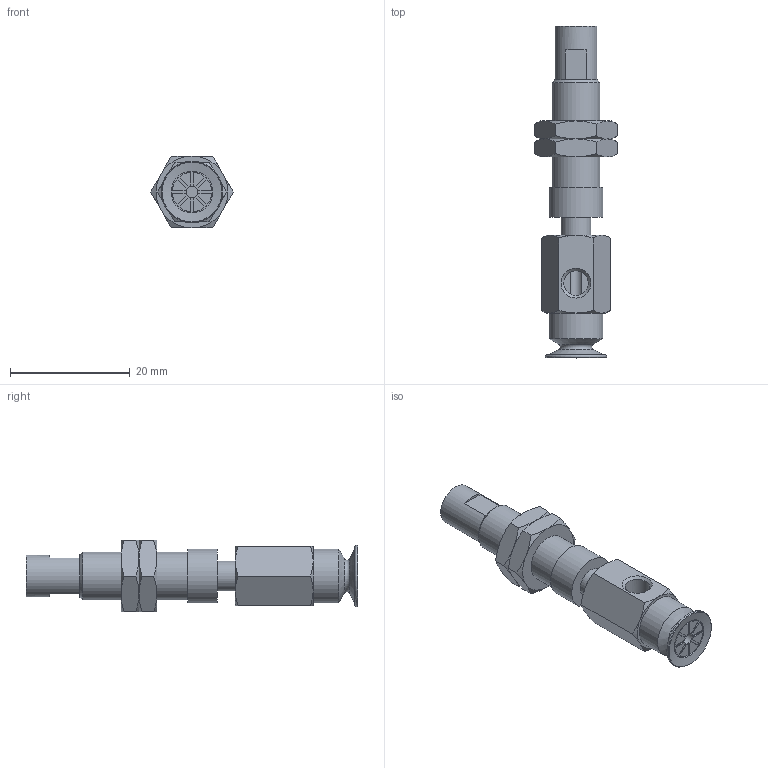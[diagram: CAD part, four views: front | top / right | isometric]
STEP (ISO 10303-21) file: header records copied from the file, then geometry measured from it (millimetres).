
FILE_DESCRIPTION(('STEP AP203'),'1');
FILE_NAME('.stp','2025-02-11T06:58:10',(' '),(' '),'Spatial InterOp 3D',' ',' ');
FILE_SCHEMA(('CONFIG_CONTROL_DESIGN'));
Length unit declared in the file: millimetre
Products named in the file (6): BNABPAYS-10B-3-※; NAPAYS-10A-3--M; NAPAYS-10A-3--F; Nut-10A-S; CONNECTOR-10A-3-PA; BPAG-10B-※_3D
Assembly tree (6 placements, depth 2):
  BNABPAYS-10B-3-※
    NAPAYS-10A-3--M
    NAPAYS-10A-3--F
    Nut-10A-S  x2
    CONNECTOR-10A-3-PA
    BPAG-10B-※_3D
Bounding box: 13.86 x 55.5 x 12 mm (x, y, z)
Volume: 3407 mm3; surface area: 4072.5 mm2
Topology: 6 solids, 6 shells, 163 faces, 370 edges, 228 vertices
Faces by surface type: plane 75, cone 51, cylinder 26, torus 11
Full cylindrical faces by diameter (mm): 2 x2, 4 x2, 4.134 x2, 5 x3, 6 x2, 7 x2, 7.188 x2, 8 x1, 9 x2
Entity records: 4226 total; most frequent: CARTESIAN_POINT 961, DIRECTION 630, ORIENTED_EDGE 548, EDGE_CURVE 274, AXIS2_PLACEMENT_3D 263, EDGE_LOOP 198, VERTEX_POINT 192, FACE_OUTER_BOUND 168
